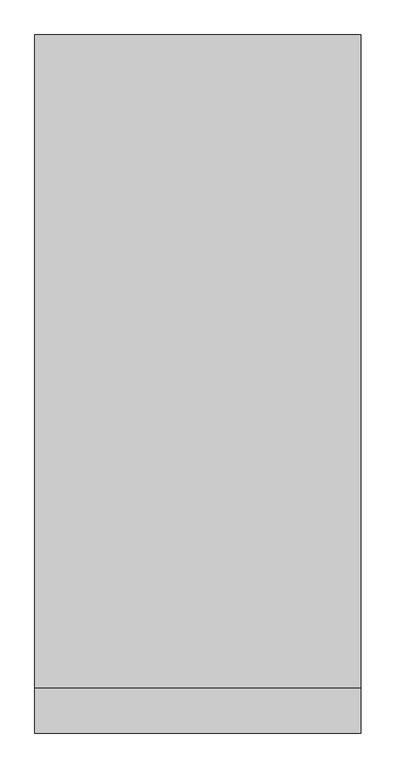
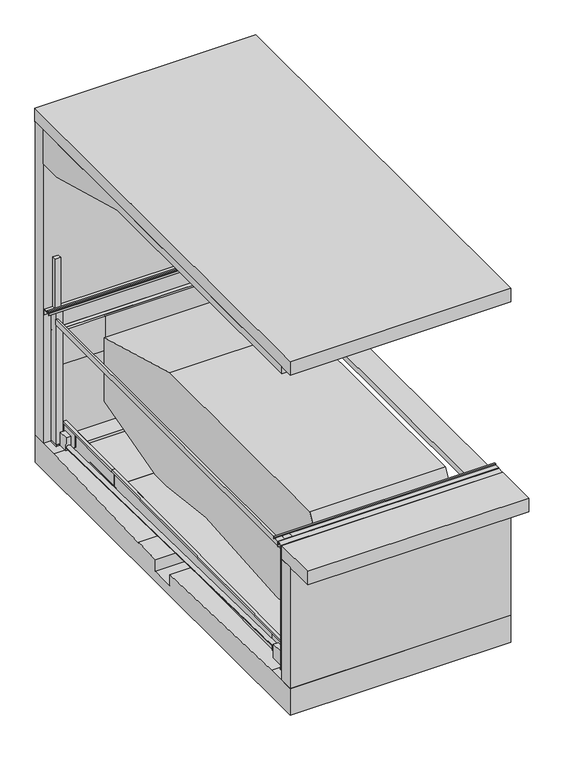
"""IFC4 building model written with IfcOpenShell, lengths in millimetres: proxy geometry, TrendVario_6100 : TrendVario_6100."""

from ifc_helpers import new_model, si_unit, point, frame, frame_2d, origin, place, context, project, spatial, polyline, circle_curve, trimmed, segment, composite_curve, outline, extrude, faceted_brep, source, transform, mapped, element, save


def generic_models_3caa6abb(model_context):
    return source(origin(), model_context, "Body", "SolidModel", [
        extrude(outline(composite_curve([segment(trimmed(circle_curve(frame_2d((-273.0, 50.2890841)), 6.0), [point((-273.0, 44.2890841))], [point((-273.0, 56.2890841))], False, "CARTESIAN"), True, "CONTINUOUS"), segment(trimmed(circle_curve(frame_2d((-273.0, 50.2890841)), 6.0), [point((-273.0, 56.2890841))], [point((-273.0, 44.2890841))], False, "CARTESIAN"), True, "CONTINUOUS")], self_intersect=False)), frame((0.0, 5774.7632152, 0.0), z_axis=(0.0, 1.0, 0.0), x_axis=(0.0, 0.0, 1.0)), (0.0, 0.0, 1.0), 150.0),
        extrude(outline(composite_curve([segment(trimmed(circle_curve(frame_2d((-273.0, 2650.0)), 6.0), [point((-267.0, 2650.0))], [point((-279.0, 2650.0))], False, "CARTESIAN"), True, "CONTINUOUS"), segment(trimmed(circle_curve(frame_2d((-273.0, 2650.0)), 6.0), [point((-279.0, 2650.0))], [point((-267.0, 2650.0))], False, "CARTESIAN"), True, "CONTINUOUS")], self_intersect=False)), frame((0.0, 5769.5664345, 0.0), z_axis=(0.0, 1.0, 0.0), x_axis=(0.0, 0.0, 1.0)), (0.0, 0.0, 1.0), 150.0),
        extrude(outline(composite_curve([segment(trimmed(circle_curve(frame_2d((-273.0, 2650.0)), 6.0), [point((-267.0, 2650.0))], [point((-279.0, 2650.0))], False, "CARTESIAN"), True, "CONTINUOUS"), segment(trimmed(circle_curve(frame_2d((-273.0, 2650.0)), 6.0), [point((-279.0, 2650.0))], [point((-267.0, 2650.0))], False, "CARTESIAN"), True, "CONTINUOUS")], self_intersect=False)), frame((0.0, -50.0, 0.0), z_axis=(0.0, 1.0, 0.0), x_axis=(0.0, 0.0, 1.0)), (0.0, 0.0, 1.0), 150.0),
        extrude(outline(composite_curve([segment(trimmed(circle_curve(frame_2d((-273.0, 50.0)), 6.0), [point((-273.0, 56.0))], [point((-273.0, 44.0))], False, "CARTESIAN"), True, "CONTINUOUS"), segment(trimmed(circle_curve(frame_2d((-273.0, 50.0)), 6.0), [point((-273.0, 44.0))], [point((-273.0, 56.0))], False, "CARTESIAN"), True, "CONTINUOUS")], self_intersect=False)), frame((0.0, -50.0, 0.0), z_axis=(0.0, 1.0, 0.0), x_axis=(0.0, 0.0, 1.0)), (0.0, 0.0, 1.0), 150.0),
        extrude(outline(composite_curve([segment(trimmed(circle_curve(frame_2d((145.0, 150.0)), 6.0), [point((139.0, 150.0))], [point((151.0, 150.0))], False, "CARTESIAN"), True, "CONTINUOUS"), segment(trimmed(circle_curve(frame_2d((145.0, 150.0)), 6.0), [point((151.0, 150.0))], [point((139.0, 150.0))], False, "CARTESIAN"), True, "CONTINUOUS")], self_intersect=False)), frame((0.0, 0.0, -2150.0), z_axis=(0.0, 0.0, 1.0), x_axis=(1.0, 0.0, 0.0)), (0.0, 0.0, 1.0), 150.0),
        extrude(outline(composite_curve([segment(trimmed(circle_curve(frame_2d((2555.0, 150.0)), 6.0), [point((2549.0, 150.0))], [point((2561.0, 150.0))], False, "CARTESIAN"), True, "CONTINUOUS"), segment(trimmed(circle_curve(frame_2d((2555.0, 150.0)), 6.0), [point((2561.0, 150.0))], [point((2549.0, 150.0))], False, "CARTESIAN"), True, "CONTINUOUS")], self_intersect=False)), frame((0.0, 0.0, -2150.0), z_axis=(0.0, 0.0, 1.0), x_axis=(1.0, 0.0, 0.0)), (0.0, 0.0, 1.0), 150.0),
        extrude(outline(composite_curve([segment(trimmed(circle_curve(frame_2d((2555.0, 5722.5588178)), 6.0), [point((2549.0, 5722.5588178))], [point((2561.0, 5722.5588178))], False, "CARTESIAN"), True, "CONTINUOUS"), segment(trimmed(circle_curve(frame_2d((2555.0, 5722.5588178)), 6.0), [point((2561.0, 5722.5588178))], [point((2549.0, 5722.5588178))], False, "CARTESIAN"), True, "CONTINUOUS")], self_intersect=False)), frame((0.0, 0.0, -2150.0), z_axis=(0.0, 0.0, 1.0), x_axis=(1.0, 0.0, 0.0)), (0.0, 0.0, 1.0), 150.0),
        extrude(outline(polyline([(320.0, 0.0), (3.0, 0.0), (3.0, -49.0), (49.9999999, -49.0), (49.9999999, -89.0), (47.0, -89.0), (47.0, -52.0), (0.0, -52.0), (0.0, 3.0), (317.0, 3.0), (317.0, 40.0), (290.0, 40.0), (290.0, 43.0), (320.0, 43.0), (320.0, 0.0)])), frame((2600.0, 237.7412679, -1960.4094164), z_axis=(0.0, 0.9999619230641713, 0.008726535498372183), x_axis=(0.0, -0.008726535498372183, 0.9999619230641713)), (0.0, 0.0, 1.0), 4178.0),
        extrude(outline(polyline([(1941.867435, 0.0), (1941.867435, -1000.0), (-1962.132565, -1000.0), (-1962.132565, 0.0), (1941.867435, 0.0)])), frame((1600.0, 2473.3523611, -1890.89763), z_axis=(0.0, -0.008726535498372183, 0.9999619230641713), x_axis=(0.0, 0.9999619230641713, 0.008726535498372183)), (0.0, 0.0, 1.0), 8.0),
        extrude(outline(polyline([(0.0, -136.0), (0.0, 0.0), (67.0, 0.0), (67.0, -136.0), (0.0, -136.0)])), frame((20.0, 5591.7992407, -1943.6900531), z_axis=(0.0, -0.008726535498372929, 0.9999619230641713), x_axis=(1.0, 0.0, 0.0)), (0.0, 0.0, 1.0), 195.0),
        extrude(outline(polyline([(5613.3985296, -1668.4910874), (5616.1473883, -1983.4790932), (5481.1525287, -1984.6571755), (5344.9795868, -1850.8403982), (5342.7979529, -1600.8499174), (5582.7888144, -1598.7555489), (5583.3996719, -1668.7528835), (5613.3985296, -1668.4910874)])), frame((87.0, 0.0, 0.0), z_axis=(1.0, 0.0, 0.0), x_axis=(0.0, 1.0, 0.0)), (0.0, 0.0, 1.0), 10.0),
        extrude(outline(polyline([(0.0, -1500.0), (0.0, 0.0), (1170.0, 0.0), (1170.0, -1500.0), (0.0, -1500.0)])), frame((100.0, 4415.1458963, -1873.955505), z_axis=(0.0, -0.008726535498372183, 0.9999619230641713), x_axis=(0.0, 0.9999619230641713, 0.008726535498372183)), (0.0, 0.0, 1.0), 8.0),
        extrude(outline(polyline([(5346.6566288, -1813.8243539), (5584.6475665, -1811.7474385), (5585.031534, -1855.7457631), (5582.0316483, -1855.7719427), (5581.6738603, -1814.7735039), (5349.6826942, -1816.7980601), (5350.0404821, -1857.7964989), (5347.0405963, -1857.8226786), (5346.6566288, -1813.8243539)])), frame((100.0, 0.0, 0.0), z_axis=(1.0, 0.0, 0.0), x_axis=(0.0, 1.0, 0.0)), (0.0, 0.0, 1.0), 1500.0),
        extrude(outline(polyline([(320.0, 0.0), (320.0, -43.0), (290.0, -43.0), (290.0, -40.0), (317.0, -40.0), (317.0, -3.0), (0.0, -3.0), (0.0, 52.0), (47.0, 52.0), (47.0, 89.0), (50.0, 89.0), (50.0, 49.0), (3.0, 49.0), (3.0, 0.0), (320.0, 0.0)])), frame((100.0, 4415.5822231, -1923.9536012), z_axis=(0.0, 0.9999619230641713, 0.008726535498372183), x_axis=(0.0, -0.008726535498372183, 0.9999619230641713)), (0.0, 0.0, 1.0), 1170.0),
        extrude(outline(composite_curve([segment(trimmed(circle_curve(frame_2d((145.0, 5722.5588178)), 6.0), [point((139.0, 5722.5588178))], [point((151.0, 5722.5588178))], False, "CARTESIAN"), True, "CONTINUOUS"), segment(trimmed(circle_curve(frame_2d((145.0, 5722.5588178)), 6.0), [point((151.0, 5722.5588178))], [point((139.0, 5722.5588178))], False, "CARTESIAN"), True, "CONTINUOUS")], self_intersect=False)), frame((0.0, 0.0, -2150.0), z_axis=(0.0, 0.0, 1.0), x_axis=(1.0, 0.0, 0.0)), (0.0, 0.0, 1.0), 150.0),
        extrude(outline(polyline([(5999.9581167, -2000.0), (5999.9581167, -2400.0), (-200.0, -2400.0), (-200.0, -2000.0), (250.0, -2000.0), (2725.0057083, -2086.4291038), (2725.0057083, -2247.5791163), (3075.0057083, -2247.5791163), (3075.0057083, -2072.4602645), (3474.9676304, -2058.4932864), (3474.9676304, -2072.4602645), (5549.9581167, -2000.0), (5999.9581167, -2000.0)])), frame((-100.0, 0.0, 0.0), z_axis=(1.0, 0.0, 0.0), x_axis=(0.0, 1.0, 0.0)), (0.0, 0.0, 1.0), 3099.0),
        extrude(outline(polyline([(0.0, 5671.7632152), (30.0, 5671.7632152), (30.0, 200.0), (0.0, 200.0), (0.0, 5671.7632152)])), frame((0.0, 0.0, -200.0), z_axis=(0.0, 0.0, 1.0), x_axis=(1.0, 0.0, 0.0)), (0.0, 0.0, 1.0), 80.0),
        extrude(outline(polyline([(164.0, 210.0), (164.0, 90.0), (0.0, 90.0), (0.0, 210.0), (164.0, 210.0)])), frame((0.0, 0.0, -2000.0), z_axis=(0.0, 0.0, 1.0), x_axis=(1.0, 0.0, 0.0)), (0.0, 0.0, 1.0), 18.0),
        extrude(outline(polyline([(164.0, 5784.7632152), (164.0, 5661.7632152), (0.0, 5661.7632152), (0.0, 5784.7632152), (164.0, 5784.7632152)])), frame((0.0, 0.0, -2000.0), z_axis=(0.0, 0.0, 1.0), x_axis=(1.0, 0.0, 0.0)), (0.0, 0.0, 1.0), 18.0),
        extrude(outline(polyline([(2536.0, 5779.5664345), (2700.0, 5779.5664345), (2700.0, 5659.5664345), (2536.0, 5659.5664345), (2536.0, 5779.5664345)])), frame((0.0, 0.0, -2000.0), z_axis=(0.0, 0.0, 1.0), x_axis=(1.0, 0.0, 0.0)), (0.0, 0.0, 1.0), 18.0),
        extrude(outline(polyline([(2536.0, 90.0), (2536.0, 210.0), (2700.0, 210.0), (2700.0, 90.0), (2536.0, 90.0)])), frame((0.0, 0.0, -2000.0), z_axis=(0.0, 0.0, 1.0), x_axis=(1.0, 0.0, 0.0)), (0.0, 0.0, 1.0), 18.0),
        extrude(outline(composite_curve([segment(trimmed(circle_curve(frame_2d((-34.8939913, -3.2601795)), 30.0), [point((-64.8939913, -3.2601795))], [point((-4.8939913, -3.2601795))], False, "CARTESIAN"), True, "CONTINUOUS"), segment(trimmed(circle_curve(frame_2d((-34.8939913, -3.2601795)), 30.0), [point((-4.8939913, -3.2601795))], [point((-64.8939913, -3.2601795))], False, "CARTESIAN"), True, "CONTINUOUS")], self_intersect=False)), frame((20.0, 5455.4339411, -1902.4242792), z_axis=(0.0, -0.9997806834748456, 0.020942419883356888), x_axis=(-1.0, 0.0, 0.0)), (0.0, 0.0, 1.0), 5042.7986422),
        extrude(outline(composite_curve([segment(trimmed(circle_curve(frame_2d((39.6709454, 48.2295861)), 30.0), [point((9.6709454, 48.2295861))], [point((69.6709454, 48.2295861))], False, "CARTESIAN"), True, "CONTINUOUS"), segment(trimmed(circle_curve(frame_2d((39.6709454, 48.2295861)), 30.0), [point((69.6709454, 48.2295861))], [point((9.6709454, 48.2295861))], False, "CARTESIAN"), True, "CONTINUOUS")], self_intersect=False)), frame((2603.0, 5455.8267219, -1947.4325068), z_axis=(0.0, -0.9997806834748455, 0.020942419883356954), x_axis=(1.0, 0.0, 0.0)), (0.0, 0.0, 1.0), 5043.1761415),
        faceted_brep([(2670.0, 210.0, -120.0), (2670.0, 210.0, -200.0), (3000.0, 210.0, -200.0), (3000.0, 210.0, -120.0), (3000.0, 5659.5664345, -120.0), (3000.0, 5659.5664345, -200.0), (2673.0, 5659.5664345, -200.0), (2673.0, 5659.5664345, -120.0), (2670.0, 232.7875088, -120.0), (2670.0, 232.7875088, -200.0), (2670.0, 5656.8533035, -120.0), (2670.0, 5635.4173681, -200.0), (2670.0, 254.2234442, -200.0), (2673.0, 232.7875088, -200.0), (2673.0, 254.2234442, -200.0), (2673.0, 5635.4173681, -200.0), (2673.0, 5656.8533035, -120.0), (2673.0, 232.7875088, -120.0)], [[[0, 1, 2, 3]], [[4, 5, 6, 7]], [[1, 0, 8, 9]], [[10, 11, 12, 8]], [[2, 1, 9, 13, 14, 12, 11, 15, 6, 5]], [[3, 2, 5, 4]], [[0, 3, 4, 7, 16, 10, 8]], [[15, 16, 7, 6]], [[16, 15, 11, 10]], [[17, 14, 13]], [[8, 17, 13, 9]], [[17, 8, 12, 14]]]),
        extrude(outline(polyline([(2700.0, 5669.5664345), (2600.0, 5669.5664345), (2600.0, 5769.5664345), (2700.0, 5769.5664345), (2700.0, 5669.5664345)])), frame((0.0, 0.0, -2000.0), z_axis=(0.0, 0.0, 1.0), x_axis=(1.0, 0.0, 0.0)), (0.0, 0.0, 1.0), 2000.0),
        extrude(outline(polyline([(237.7566323, -1940.8501873), (236.1472757, -1756.4361785), (413.7566323, -1756.4361785), (413.7566323, -1939.3142585), (237.7566323, -1940.8501873)])), frame((2613.0, 0.0, 0.0), z_axis=(1.0, 0.0, 0.0), x_axis=(0.0, 1.0, 0.0)), (0.0, 0.0, 1.0), 70.0),
        extrude(outline(polyline([(237.7412679, -1960.4094164), (235.9626972, -1756.6053926), (413.7412679, -1756.6053926), (413.7412679, -1958.8734877), (237.7412679, -1960.4094164)])), frame((20.0, 0.0, 0.0), z_axis=(1.0, 0.0, 0.0), x_axis=(0.0, 1.0, 0.0)), (0.0, 0.0, 1.0), 70.0),
        extrude(outline(polyline([(0.0, -136.0), (0.0, 0.0), (67.0, 0.0), (67.0, -136.0), (0.0, -136.0)])), frame((2610.0, 5591.7992407, -1943.6900531), z_axis=(0.0, -0.008726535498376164, 0.9999619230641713), x_axis=(1.0, 0.0, 0.0)), (0.0, 0.0, 1.0), 195.0),
        extrude(outline(polyline([(2600.0, 200.0), (2700.0, 200.0), (2700.0, 100.0), (2600.0, 100.0), (2600.0, 200.0)])), frame((0.0, 0.0, -2000.0), z_axis=(0.0, 0.0, 1.0), x_axis=(1.0, 0.0, 0.0)), (0.0, 0.0, 1.0), 2000.0),
        extrude(outline(composite_curve([segment(polyline([(5620.0145776, -585.9914336), (5620.0145776, -1335.9999998), (5618.0221903, -1335.9999998), (5618.0221903, -1527.7646518), (4313.3699728, -1877.3451599)]), True, "CONTINUOUS"), segment(trimmed(circle_curve(frame_2d((4247.6299354, -1632.0)), 254.0), [point((4313.3699728, -1877.3451599))], [point((4224.7221662, -1884.9648871))], False, "CARTESIAN"), True, "CONTINUOUS"), segment(polyline([(4224.7221662, -1884.9648871), (3145.3807126, -1751.0), (1424.180165, -1884.6085614)]), True, "CONTINUOUS"), segment(trimmed(circle_curve(frame_2d((1397.6299354, -1632.0)), 254.0), [point((1424.180165, -1884.6085614))], [point((1340.4923675, -1879.4899965))], False, "CARTESIAN"), True, "CONTINUOUS"), segment(polyline([(1340.4923675, -1879.4899965), (320.456461, -1643.9961518), (320.456461, -689.5033287), (622.3673675, -136.0), (4020.0450351, -135.9999998), (5620.0145776, -585.9914336)]), True, "CONTINUOUS")], self_intersect=False)), frame((650.0, 0.0, 0.0), z_axis=(1.0, 0.0, 0.0), x_axis=(0.0, 1.0, 0.0)), (0.0, 0.0, 1.0), 1900.0),
        extrude(outline(polyline([(2999.0, -200.0), (-100.0, -200.0), (-100.0, 0.0), (2999.0, 0.0), (2999.0, -200.0)])), frame((0.0, 0.0, -2000.0), z_axis=(0.0, 0.0, 1.0), x_axis=(1.0, 0.0, 0.0)), (0.0, 0.0, 1.0), 1800.0),
        faceted_brep([(100.0, 4412.2895056, -1603.966424), (100.0, 4415.0558174, -1920.9543536), (149.0, 4415.0558174, -1920.9543536), (149.0, 4414.6456702, -1873.9561432), (189.0, 4414.6456702, -1873.9561432), (189.0, 4414.6718498, -1876.956029), (152.0, 4414.6718498, -1876.956029), (152.0, 4415.081997, -1923.9542393), (97.0, 4415.081997, -1923.9542393), (97.0, 4412.3156852, -1606.9663097), (60.0, 4412.3156852, -1606.9663097), (60.0, 4412.5513017, -1633.9652817), (57.0, 4412.5513017, -1633.9652817), (57.0, 4412.2895056, -1603.966424), (100.0, 237.741276, -1960.4093395), (100.0, 234.9487847, -1640.4215242), (57.0, 234.9487847, -1640.4215242), (57.0, 235.2105807, -1670.4203818), (60.0, 235.2105807, -1670.4203818), (60.0, 234.9749643, -1643.4214099), (97.0, 234.9749643, -1643.4214099), (97.0, 237.741276, -1960.4093395), (100.0, 337.7374683, -1959.536686), (100.0, 337.7112887, -1956.5368002), (149.0, 337.7112887, -1956.5368002), (149.0, 337.3011416, -1909.5385898), (189.0, 337.3011416, -1909.5385898), (189.0, 337.3273212, -1912.5384756), (152.0, 337.3273212, -1912.5384756), (152.0, 337.7374683, -1959.536686)], [[[0, 1, 2, 3, 4, 5, 6, 7, 8, 9, 10, 11, 12, 13]], [[14, 15, 16, 17, 18, 19, 20, 21]], [[1, 0, 15, 14, 22, 23]], [[2, 1, 23, 24]], [[3, 2, 24, 25]], [[4, 3, 25, 26]], [[5, 4, 26, 27]], [[6, 5, 27, 28]], [[7, 6, 28, 29]], [[8, 7, 29, 22, 14, 21]], [[9, 8, 21, 20]], [[10, 9, 20, 19]], [[11, 10, 19, 18]], [[12, 11, 18, 17]], [[13, 12, 17, 16]], [[0, 13, 16, 15]], [[23, 22, 29, 28, 27, 26, 25, 24]]]),
        extrude(outline(polyline([(556.8174373, -1957.6248809), (237.7412679, -1960.4094164), (235.9626972, -1756.6053926), (322.913076, -1669.6550138), (556.8174373, -1667.6137613), (556.8174373, -1957.6248809)])), frame((90.0, 0.0, 0.0), z_axis=(1.0, 0.0, 0.0), x_axis=(0.0, 1.0, 0.0)), (0.0, 0.0, 1.0), 10.0),
        extrude(outline(polyline([(342.6444987, -1649.9235911), (556.8174373, -1648.0545322), (556.8174373, -1938.0656517), (237.7412679, -1940.8501873), (236.1319113, -1756.4361785), (342.6444987, -1649.9235911)])), frame((2603.0, 0.0, 0.0), z_axis=(1.0, 0.0, 0.0), x_axis=(0.0, 1.0, 0.0)), (0.0, 0.0, 1.0), 10.0),
        extrude(outline(polyline([(5582.7713613, -1596.755625), (5583.3996719, -1668.7528835), (5613.3985296, -1668.4910874), (5616.1473883, -1983.4790932), (5481.1525287, -1984.6571755), (5344.9795868, -1850.8403982), (5342.7804998, -1598.8499935), (5582.7713613, -1596.755625)])), frame((2600.0, 0.0, 0.0), z_axis=(1.0, 0.0, 0.0), x_axis=(0.0, 1.0, 0.0)), (0.0, 0.0, 1.0), 10.0),
        extrude(outline(polyline([(2600.0, 511.2945081), (2600.0, 241.2945081), (100.0, 241.2945081), (100.0, 511.2945081), (2600.0, 511.2945081)])), frame((0.0, 0.0, -1888.4610204), z_axis=(0.0, 0.0, 1.0), x_axis=(1.0, 0.0, 0.0)), (0.0, 0.0, 1.0), 30.0),
        extrude(outline(polyline([(319.9999232, -43.0), (2.9999232, -43.0), (2.9999232, -92.0), (49.9999231, -92.0), (49.9999231, -132.0), (46.9999232, -132.0), (46.9999232, -95.0), (-7.68e-05, -95.0), (-7.68e-05, -40.0), (316.9999232, -40.0), (316.9999232, -3.0), (289.9999232, -3.0), (289.9999232, 0.0), (319.9999232, 0.0), (319.9999232, -43.0)])), frame((2643.0, 4415.5821906, -1923.9498742), z_axis=(0.0, 0.9999619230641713, 0.008726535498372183), x_axis=(0.0, -0.008726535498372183, 0.9999619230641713)), (0.0, 0.0, 1.0), 1183.1966017),
        extrude(outline(polyline([(100.4126792, 0.0), (100.4126792, -1170.5002127), (-899.5873208, -1170.5002127), (-899.5873208, 0.0), (100.4126792, 0.0)])), frame((2499.5873208, 5585.1013463, -1863.7454585), z_axis=(0.0, -0.008726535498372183, 0.9999619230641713), x_axis=(1.0, 0.0, 0.0)), (0.0, 0.0, 1.0), 8.0),
        extrude(outline(polyline([(5587.3833555, -1811.7198364), (5587.767323, -1855.718161), (5584.7674373, -1855.7443406), (5584.4096493, -1814.7459018), (5352.4184831, -1816.770458), (5352.7762711, -1857.7688968), (5349.7763853, -1857.7950764), (5349.3924178, -1813.7967518), (5587.3833555, -1811.7198364)])), frame((1600.0, 0.0, 0.0), z_axis=(1.0, 0.0, 0.0), x_axis=(0.0, 1.0, 0.0)), (0.0, 0.0, 1.0), 1000.0),
        extrude(outline(polyline([(2038.9337722, 0.0), (2038.9337722, -1500.0), (-1864.3763713, -1500.0), (-1864.3763713, 0.0), (2038.9337722, 0.0)])), frame((1600.0, 2550.3403211, -1890.2294167), z_axis=(0.0, -0.008726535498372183, 0.9999619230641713), x_axis=(0.0, -0.9999619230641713, -0.008726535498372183)), (0.0, 0.0, 1.0), 8.0),
        extrude(outline(polyline([(-100.0, 5677.3612215), (-100.0, 5702.3612215), (2999.0, 5702.3612215), (2999.0, 5677.3612215), (-100.0, 5677.3612215)])), frame((0.0, 0.0, 8.0), z_axis=(0.0, 0.0, 1.0), x_axis=(1.0, 0.0, 0.0)), (0.0, 0.0, 1.0), 15.0),
        extrude(outline(polyline([(5778.1588219, 0.0), (5778.1588219, -80.0), (5775.1766811, -80.0), (5775.1766811, -3.0), (5669.5588219, -3.0), (5669.5588219, -30.0), (5666.5588219, -30.0), (5666.5588219, 0.0), (5778.1588219, 0.0)])), frame((-100.0, 0.0, 0.0), z_axis=(1.0, 0.0, 0.0), x_axis=(0.0, 1.0, 0.0)), (0.0, 0.0, 1.0), 3099.0),
        extrude(outline(polyline([(-100.0, -630.5625149), (-100.0, 0.0), (2999.0, 0.0), (2999.0, -630.5625149), (-100.0, -630.5625149)])), frame((0.0, 0.0, -200.0), z_axis=(0.0, 0.0, 1.0), x_axis=(1.0, 0.0, 0.0)), (0.0, 0.0, 1.0), 200.0),
        faceted_brep([(100.0, 200.0, 8.0), (0.0, 200.0, 8.0), (0.0, 100.0, 8.0), (100.0, 100.0, 8.0), (100.0, 200.0, -2000.0), (100.0, 100.0, -2000.0), (0.0, 100.0, -2000.0), (0.0, 200.0, -2000.0), (0.0, 100.0, -1.0), (0.0, 100.0, 0.0), (100.0, 100.0, -1.0), (100.0, 100.0, 0.0)], [[[0, 1, 2, 3]], [[4, 5, 6, 7]], [[1, 0, 4, 7]], [[2, 1, 7, 6, 8, 9]], [[3, 2, 9, 8, 6, 5, 10, 11]], [[0, 3, 11, 10, 5, 4]]]),
        faceted_brep([(2999.0, 5467.6439919, 2151.0), (2999.0, 3999.9276592, 2551.0062257), (-100.0, 3999.9505029, 2551.0), (-100.0, 5467.6439919, 2151.0), (2999.0, 5799.9276592, 2151.0), (2999.0, 5799.9276592, 2651.0), (2999.0, 0.0, 2651.0), (2999.0, 0.0, 2551.0), (-100.0, 5799.9276592, 2651.0), (-100.0, 5799.9276592, 2151.0), (-100.0, 0.0, 2551.0), (-100.0, 0.0, 2651.0)], [[[0, 1, 2, 3]], [[4, 5, 6, 7, 1, 0]], [[8, 9, 3, 2, 10, 11]], [[5, 4, 9, 8]], [[6, 5, 8, 11]], [[9, 4, 0, 3]], [[7, 10, 2, 1]], [[7, 6, 11, 10]]]),
        faceted_brep([(97.0, 5714.7632152, -1.0), (97.0, 5771.7632152, -1.0), (100.0, 5771.7632152, -1.0), (100.0, 5711.7632152, -1.0), (22.0, 5711.7632152, -1.0), (22.0, 5714.7632152, -1.0), (100.0, 5771.7632152, 0.0), (97.0, 5771.7632152, 0.0), (97.0, 5714.7632152, 0.0), (22.0, 5714.7632152, 0.0), (22.0, 5711.7632152, 0.0), (100.0, 5711.7632152, 0.0), (97.0, 5714.7632152, 0.0), (97.0, 5774.7632152, 740.0), (22.0, 5774.7632152, 740.0), (22.0, 5714.7632152, 740.0), (97.0, 5714.7632152, 740.0), (22.0, 5774.7632152, 0.0), (97.0, 5774.7632152, 0.0), (22.0, 5771.7632152, 0.0)], [[[0, 1, 2, 3, 4, 5]], [[6, 7, 8, 9, 10, 11]], [[3, 2, 6, 11]], [[1, 0, 12, 7]], [[13, 14, 15, 16]], [[17, 18, 7, 12, 9, 19]], [[13, 16, 8, 7, 18]], [[16, 15, 9, 8]], [[15, 14, 17, 19, 9]], [[14, 13, 18, 17]], [[2, 1, 7, 6]], [[5, 9, 12, 0]], [[5, 4, 10, 9]], [[4, 3, 11, 10]]]),
        faceted_brep([(100.0, 5671.7632152, -3.0), (100.0, 5774.7632152, -3.0), (0.0, 5774.7632152, -3.0), (0.0, 5671.7632152, -3.0), (100.0, 5671.7632152, -2000.0), (0.0, 5671.7632152, -2000.0), (0.0, 5774.7632152, -2000.0), (100.0, 5774.7632152, -2000.0)], [[[0, 1, 2, 3]], [[4, 5, 6, 7]], [[1, 0, 4, 7]], [[2, 1, 7, 6]], [[3, 2, 6, 5]], [[0, 3, 5, 4]]]),
        extrude(outline(polyline([(0.0, 5721.7632152), (0.0, 5774.7632152), (2999.0, 5774.7632152), (2999.0, 5721.7632152), (0.0, 5721.7632152)])), frame((0.0, 0.0, -352.0), z_axis=(0.0, 0.0, 1.0), x_axis=(1.0, 0.0, 0.0)), (0.0, 0.0, 1.0), 25.0),
        extrude(outline(polyline([(700.0, 5769.5664345), (700.0, 5684.5664345), (100.0, 5684.5664345), (100.0, 5769.5664345), (700.0, 5769.5664345)])), frame((0.0, 0.0, -827.0), z_axis=(0.0, 0.0, 1.0), x_axis=(1.0, 0.0, 0.0)), (0.0, 0.0, 1.0), 500.0),
        extrude(outline(polyline([(2600.0, 5774.7632152), (2600.0, 5721.7632152), (97.0, 5721.7632152), (97.0, 5774.7632152), (2600.0, 5774.7632152)])), frame((0.0, 0.0, -352.0), z_axis=(0.0, 0.0, 1.0), x_axis=(1.0, 0.0, 0.0)), (0.0, 0.0, 1.0), 25.0),
        extrude(outline(polyline([(-100.0, 169.9031048), (-100.0, 194.9031048), (2999.0, 194.9031048), (2999.0, 169.9031048), (-100.0, 169.9031048)])), frame((0.0, 0.0, 7.5), z_axis=(0.0, 0.0, 1.0), x_axis=(1.0, 0.0, 0.0)), (0.0, 0.0, 1.0), 15.0),
        extrude(outline(polyline([(100.0, 0.0), (100.0, -73.0), (97.0, -73.0), (97.0, 7.0), (203.0, 7.0), (203.0, -23.0), (200.0, -23.0), (200.0, 0.0), (100.0, 0.0)])), frame((-100.0, 0.0, 0.0), z_axis=(1.0, 0.0, 0.0), x_axis=(0.0, 1.0, 0.0)), (0.0, 0.0, 1.0), 3099.0),
        extrude(outline(polyline([(96.5, 0.0), (96.5, -48.0), (93.5, -48.0), (93.5, -3.0), (13.0, -3.0), (13.0, -48.0), (10.0, -48.0), (10.0, 0.0), (96.5, 0.0)])), frame((-100.0, 0.0, 0.0), z_axis=(1.0, 0.0, 0.0), x_axis=(0.0, 1.0, 0.0)), (0.0, 0.0, 1.0), 3099.0),
        extrude(outline(polyline([(2999.0, 5799.9276592), (-100.0, 5799.9276592), (-100.0, 5999.9581167), (2999.0, 5999.9581167), (2999.0, 5799.9276592)])), frame((0.0, 0.0, -2000.0), z_axis=(0.0, 0.0, 1.0), x_axis=(1.0, 0.0, 0.0)), (0.0, 0.0, 1.0), 4651.0),
        extrude(outline(polyline([(2999.0, -200.0), (-100.0, -200.0), (-100.0, 6002.7632152), (2999.0, 6002.7632152), (2999.0, -200.0)])), frame((0.0, 0.0, 2651.0), z_axis=(0.0, 0.0, 1.0), x_axis=(1.0, 0.0, 0.0)), (0.0, 0.0, 1.0), 200.0),
    ])


if __name__ == "__main__":
    model = new_model("IFC4")
    model_context = context("Model", 3, world=origin())
    ifc_project = project(units=[si_unit("LENGTHUNIT", "METRE", prefix="MILLI")], contexts=[model_context])
    site = spatial("IfcSite", under=ifc_project)
    building = spatial("IfcBuilding", under=site)
    placement = place(None, origin())
    generic_models_shape = generic_models_3caa6abb(model_context)
    element("IfcBuildingElementProxy", 1, Name="TrendVario_6100 : TrendVario_6100", ObjectType="TrendVario_6100 : TrendVario_6100", at=placement, inside=building, context=model_context, shape_type="MappedRepresentation", body=[
        mapped(generic_models_shape, transform((0.0, 0.0, 0.0), x_axis=(1.0, 0.0, 0.0), y_axis=(0.0, 1.0, 0.0), z_axis=(0.0, 0.0, 1.0))),
    ])
    save(model, "model.ifc")
